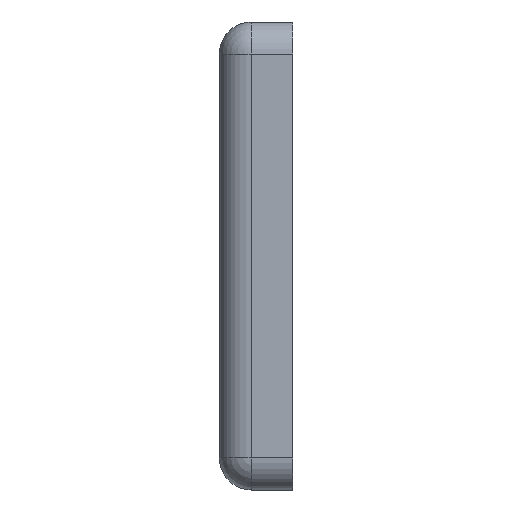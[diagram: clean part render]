
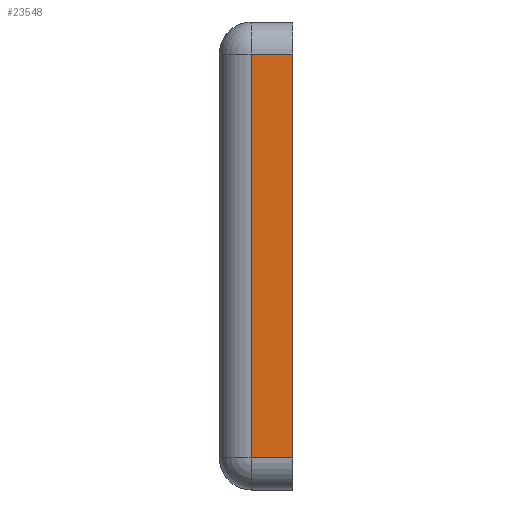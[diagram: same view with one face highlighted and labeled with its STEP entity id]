
A CAD part, left-side view. The second image highlights one B-rep face of the part: STEP entity #23548.
In plain terms, the highlighted planar face has unit normal (-1, 0, 0).
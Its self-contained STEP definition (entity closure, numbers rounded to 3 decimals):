
#618 = LINE ( 'NONE', #46929, #41171 ) ;
#2655 = VERTEX_POINT ( 'NONE', #39562 ) ;
#3310 = LINE ( 'NONE', #10364, #67463 ) ;
#3360 = LINE ( 'NONE', #83061, #24929 ) ;
#4826 = EDGE_CURVE ( 'NONE', #6641, #57271, #3360, .T. ) ;
#5290 = VERTEX_POINT ( 'NONE', #35691 ) ;
#6359 = DIRECTION ( 'NONE',  ( 0., -1., 0. ) ) ;
#6641 = VERTEX_POINT ( 'NONE', #45725 ) ;
#10364 = CARTESIAN_POINT ( 'NONE',  ( -28.75, 0., 7.55 ) ) ;
#10761 = DIRECTION ( 'NONE',  ( 0., 0., -1. ) ) ;
#13760 = EDGE_CURVE ( 'NONE', #6641, #5290, #81561, .T. ) ;
#16513 = CARTESIAN_POINT ( 'NONE',  ( -28.75, 2.75, 7.55 ) ) ;
#23548 = ADVANCED_FACE ( 'NONE', ( #38526 ), #44273, .F. ) ;
#24929 = VECTOR ( 'NONE', #65868, 39.37 ) ;
#27920 = ORIENTED_EDGE ( 'NONE', *, *, #13760, .T. ) ;
#28308 = CARTESIAN_POINT ( 'NONE',  ( -28.75, 1.55, 7.55 ) ) ;
#32187 = CARTESIAN_POINT ( 'NONE',  ( -28.75, 0., 7.55 ) ) ;
#32338 = ORIENTED_EDGE ( 'NONE', *, *, #74191, .T. ) ;
#35691 = CARTESIAN_POINT ( 'NONE',  ( -28.75, 1.55, -7.55 ) ) ;
#38526 = FACE_OUTER_BOUND ( 'NONE', #86784, .T. ) ;
#39562 = CARTESIAN_POINT ( 'NONE',  ( -28.75, 0., -7.55 ) ) ;
#40160 = AXIS2_PLACEMENT_3D ( 'NONE', #16513, #71947, #10761 ) ;
#41103 = DIRECTION ( 'NONE',  ( 0., 0., -1. ) ) ;
#41171 = VECTOR ( 'NONE', #6359, 39.37 ) ;
#44273 = PLANE ( 'NONE',  #40160 ) ;
#45033 = EDGE_CURVE ( 'NONE', #2655, #57271, #3310, .T. ) ;
#45725 = CARTESIAN_POINT ( 'NONE',  ( -28.75, 1.55, 7.55 ) ) ;
#46929 = CARTESIAN_POINT ( 'NONE',  ( -28.75, 2.75, -7.55 ) ) ;
#53815 = VECTOR ( 'NONE', #41103, 39.37 ) ;
#57271 = VERTEX_POINT ( 'NONE', #32187 ) ;
#62163 = ORIENTED_EDGE ( 'NONE', *, *, #4826, .F. ) ;
#65868 = DIRECTION ( 'NONE',  ( 0., -1., 0. ) ) ;
#67463 = VECTOR ( 'NONE', #84751, 39.37 ) ;
#71947 = DIRECTION ( 'NONE',  ( 1., 0., 0. ) ) ;
#74191 = EDGE_CURVE ( 'NONE', #5290, #2655, #618, .T. ) ;
#81370 = ORIENTED_EDGE ( 'NONE', *, *, #45033, .T. ) ;
#81561 = LINE ( 'NONE', #28308, #53815 ) ;
#83061 = CARTESIAN_POINT ( 'NONE',  ( -28.75, 2.75, 7.55 ) ) ;
#84751 = DIRECTION ( 'NONE',  ( 0., 0., 1. ) ) ;
#86784 = EDGE_LOOP ( 'NONE', ( #62163, #27920, #32338, #81370 ) ) ;
